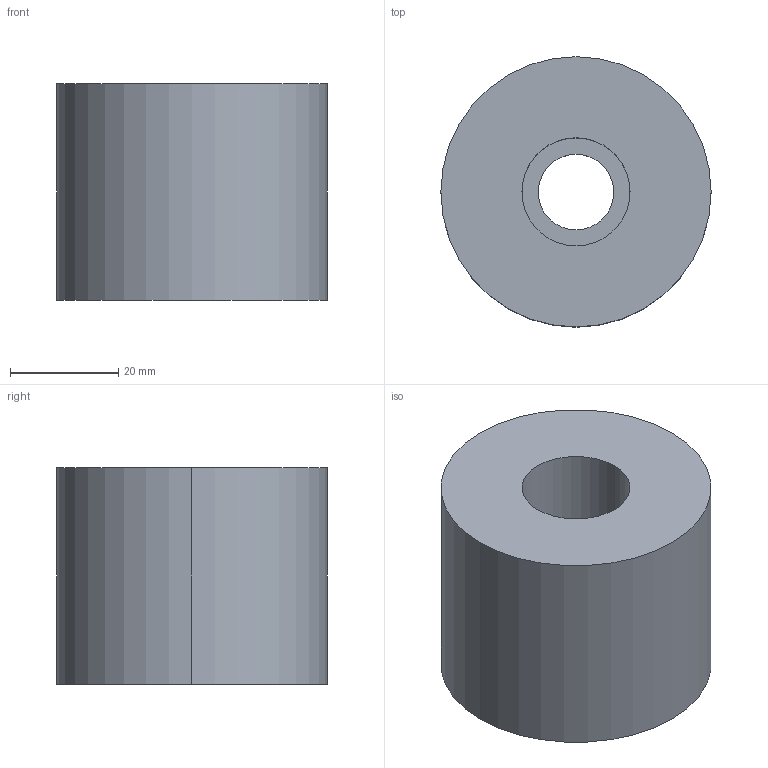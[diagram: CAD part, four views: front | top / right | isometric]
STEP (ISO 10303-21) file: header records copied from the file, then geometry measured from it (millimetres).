
FILE_DESCRIPTION(/* description */ (''),/* implementation_level */ '2;1');
FILE_NAME(/* name */ '3d_azn50-40_03250_r00.stp',/* time_stamp */ '2011-01-10T14:17:33+09:00',/* author */ ('MISUMI'),/* organization */ (''),/* preprocessor_version */ 'ST-DEVELOPER v11',/* originating_system */ 'UGS - NX 5.0',/* authorisation */ '');
FILE_SCHEMA (('CONFIG_CONTROL_DESIGN'));
Length unit declared in the file: millimetre
Products named in the file (1): 3d_azn50-40_03250_r00
Bounding box: 50 x 50 x 40 mm (x, y, z)
Volume: 67575.7 mm3; surface area: 12227.1 mm2
Topology: 1 solids, 1 shells, 9 faces, 18 edges, 12 vertices
Faces by surface type: cylinder 6, plane 3
Entity records: 334 total; most frequent: DIRECTION 50, CARTESIAN_POINT 40, ORIENTED_EDGE 36, AXIS2_PLACEMENT_3D 22, EDGE_CURVE 18, EDGE_LOOP 12, VERTEX_POINT 12, CIRCLE 12
